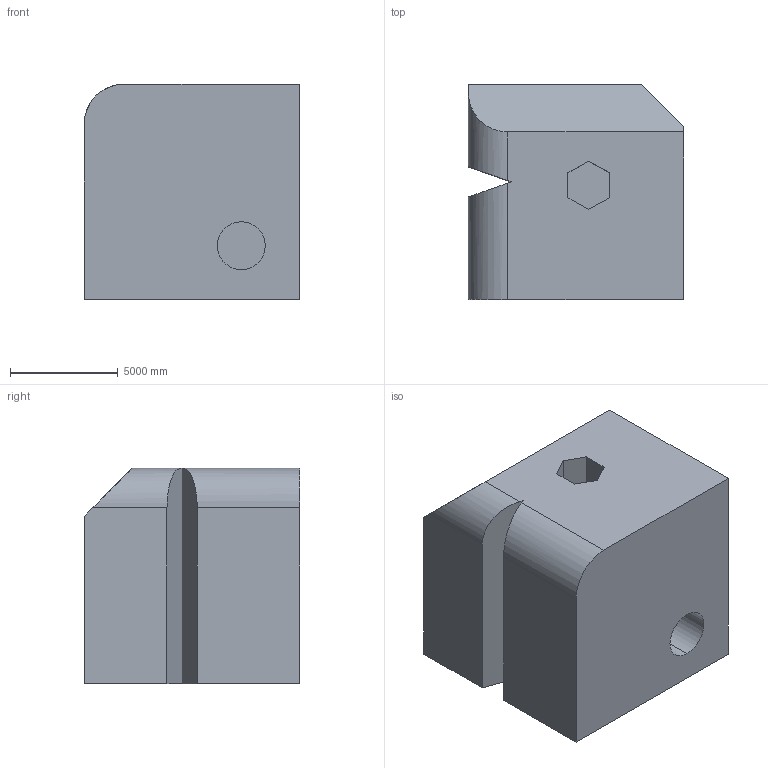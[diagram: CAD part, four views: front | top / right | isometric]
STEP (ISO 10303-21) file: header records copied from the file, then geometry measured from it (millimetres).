
FILE_DESCRIPTION (( 'STEP AP203' ), '1' );
FILE_NAME ('1780.STEP', '2022-08-19T12:49:26', ( 'user' ), ( '' ), 'SwSTEP 2.0', 'SolidWorks 2021', '' );
FILE_SCHEMA (( 'CONFIG_CONTROL_DESIGN' ));
Length unit declared in the file: centimetre
Products named in the file (1): 1780
Bounding box: 10000 x 10000 x 10000 mm (x, y, z)
Volume: 888344564934 mm3; surface area: 666979865.1 mm2
Topology: 1 solids, 1 shells, 29 faces, 72 edges, 48 vertices
Faces by surface type: plane 23, cylinder 6
Entity records: 932 total; most frequent: CARTESIAN_POINT 159, ORIENTED_EDGE 144, DIRECTION 138, EDGE_CURVE 72, VECTOR 60, LINE 60, VERTEX_POINT 48, AXIS2_PLACEMENT_3D 39
